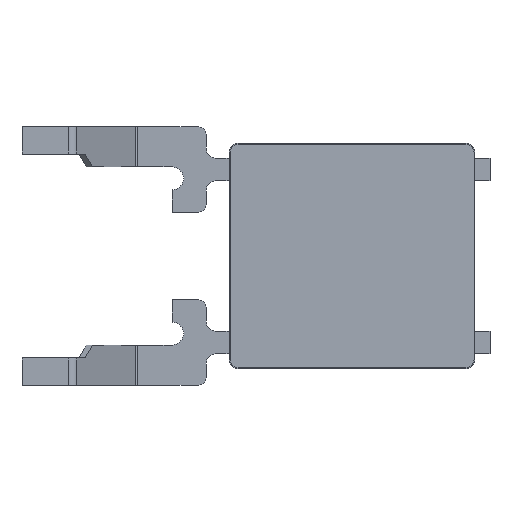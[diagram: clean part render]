
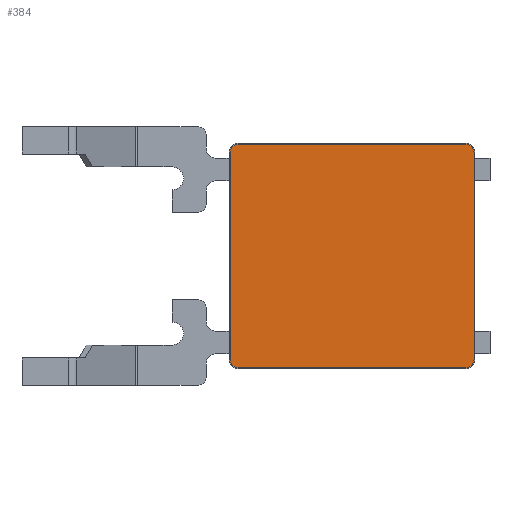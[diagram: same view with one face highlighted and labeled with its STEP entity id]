
A CAD part, front view. The second image highlights one B-rep face of the part: STEP entity #384.
In plain terms, the highlighted planar face has unit normal (0, -1, 0).
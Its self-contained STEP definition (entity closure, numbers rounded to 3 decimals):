
#141=CARTESIAN_POINT('',(2.5,-0.05,2.275));
#142=DIRECTION('',(0.,-1.,0.));
#143=DIRECTION('',(1.,0.,0.));
#144=AXIS2_PLACEMENT_3D('',#141,#142,#143);
#149=DIRECTION('',(0.,0.,1.));
#150=VECTOR('',#149,4.55);
#151=CARTESIAN_POINT('',(2.68,-0.05,-2.275));
#152=LINE('',#151,#150);
#156=CARTESIAN_POINT('',(2.5,-0.05,-2.275));
#157=DIRECTION('',(0.,-1.,0.));
#158=DIRECTION('',(0.,0.,-1.));
#159=AXIS2_PLACEMENT_3D('',#156,#157,#158);
#164=DIRECTION('',(1.,0.,0.));
#165=VECTOR('',#164,5.);
#166=CARTESIAN_POINT('',(-2.5,-0.05,-2.455));
#167=LINE('',#166,#165);
#171=CARTESIAN_POINT('',(-2.5,-0.05,-2.275));
#172=DIRECTION('',(0.,-1.,0.));
#173=DIRECTION('',(-1.,0.,0.));
#174=AXIS2_PLACEMENT_3D('',#171,#172,#173);
#179=DIRECTION('',(0.,0.,-1.));
#180=VECTOR('',#179,4.55);
#181=CARTESIAN_POINT('',(-2.68,-0.05,2.275));
#182=LINE('',#181,#180);
#186=CARTESIAN_POINT('',(-2.5,-0.05,2.275));
#187=DIRECTION('',(0.,-1.,0.));
#188=DIRECTION('',(0.,0.,1.));
#189=AXIS2_PLACEMENT_3D('',#186,#187,#188);
#194=DIRECTION('',(-1.,0.,0.));
#195=VECTOR('',#194,5.);
#196=CARTESIAN_POINT('',(2.5,-0.05,2.455));
#197=LINE('',#196,#195);
#217=CARTESIAN_POINT('',(2.68,-0.05,2.275));
#218=CARTESIAN_POINT('',(2.5,-0.05,2.455));
#219=VERTEX_POINT('',#217);
#220=VERTEX_POINT('',#218);
#221=CARTESIAN_POINT('',(-2.5,-0.05,2.455));
#222=VERTEX_POINT('',#221);
#223=CARTESIAN_POINT('',(-2.68,-0.05,2.275));
#224=VERTEX_POINT('',#223);
#225=CARTESIAN_POINT('',(-2.68,-0.05,-2.275));
#226=VERTEX_POINT('',#225);
#227=CARTESIAN_POINT('',(-2.5,-0.05,-2.455));
#228=VERTEX_POINT('',#227);
#229=CARTESIAN_POINT('',(2.5,-0.05,-2.455));
#230=VERTEX_POINT('',#229);
#231=CARTESIAN_POINT('',(2.68,-0.05,-2.275));
#232=VERTEX_POINT('',#231);
#369=CARTESIAN_POINT('',(0.,-0.05,0.));
#370=DIRECTION('',(0.,-1.,0.));
#371=DIRECTION('',(-1.,0.,0.));
#372=AXIS2_PLACEMENT_3D('',#369,#370,#371);
#373=PLANE('',#372);
#374=ORIENTED_EDGE('',*,*,#265,.F.);
#375=ORIENTED_EDGE('',*,*,#280,.F.);
#376=ORIENTED_EDGE('',*,*,#294,.F.);
#377=ORIENTED_EDGE('',*,*,#308,.F.);
#378=ORIENTED_EDGE('',*,*,#322,.F.);
#379=ORIENTED_EDGE('',*,*,#336,.F.);
#380=ORIENTED_EDGE('',*,*,#350,.F.);
#381=ORIENTED_EDGE('',*,*,#363,.F.);
#382=EDGE_LOOP('',(#374,#375,#376,#377,#378,#379,#380,#381));
#383=FACE_OUTER_BOUND('',#382,.F.);
#145=CIRCLE('',#144,0.18);
#160=CIRCLE('',#159,0.18);
#175=CIRCLE('',#174,0.18);
#190=CIRCLE('',#189,0.18);
#265=EDGE_CURVE('',#219,#220,#145,.T.);
#280=EDGE_CURVE('',#232,#219,#152,.T.);
#294=EDGE_CURVE('',#230,#232,#160,.T.);
#308=EDGE_CURVE('',#228,#230,#167,.T.);
#322=EDGE_CURVE('',#226,#228,#175,.T.);
#336=EDGE_CURVE('',#224,#226,#182,.T.);
#350=EDGE_CURVE('',#222,#224,#190,.T.);
#363=EDGE_CURVE('',#220,#222,#197,.T.);
#384=ADVANCED_FACE('',(#383),#373,.T.);
